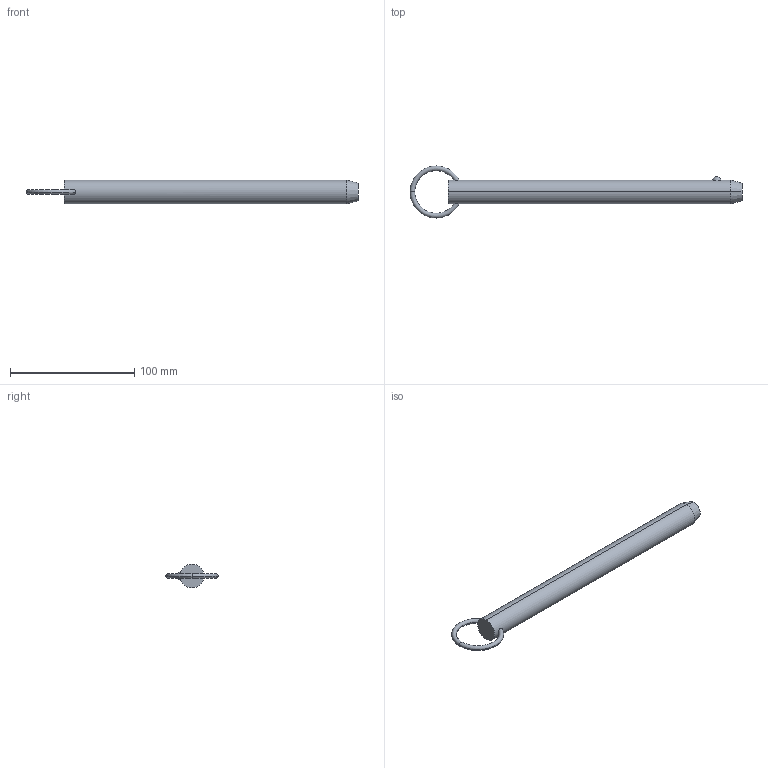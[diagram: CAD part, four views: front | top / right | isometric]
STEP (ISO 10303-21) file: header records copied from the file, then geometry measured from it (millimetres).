
FILE_DESCRIPTION (( 'STEP AP203' ), '1' );
FILE_NAME ('33010.W7580.step', '2024-11-01T10:45:01', ( '' ), ( '' ), 'SwSTEP 2.0', 'SolidWorks 2019', '' );
FILE_SCHEMA (( 'CONFIG_CONTROL_DESIGN' ));
Length unit declared in the file: millimetre
Products named in the file (3): Part1_33010.W7580; 33010.W7580; Part2_33010.W7580
Assembly tree (2 placements, depth 2):
  33010.W7580
    Part1_33010.W7580
    Part2_33010.W7580
Bounding box: 267.15 x 41.91 x 19.05 mm (x, y, z)
Volume: 67917.4 mm3; surface area: 16264.4 mm2
Topology: 2 solids, 2 shells, 16 faces, 31 edges, 18 vertices
Faces by surface type: torus 8, sphere 2, cone 2, cylinder 2, plane 2
Entity records: 893 total; most frequent: CARTESIAN_POINT 250, DIRECTION 88, ORIENTED_EDGE 62, AXIS2_PLACEMENT_3D 42, EDGE_CURVE 31, PERSON_AND_ORGANIZATION 26, CIRCLE 21, EDGE_LOOP 19
